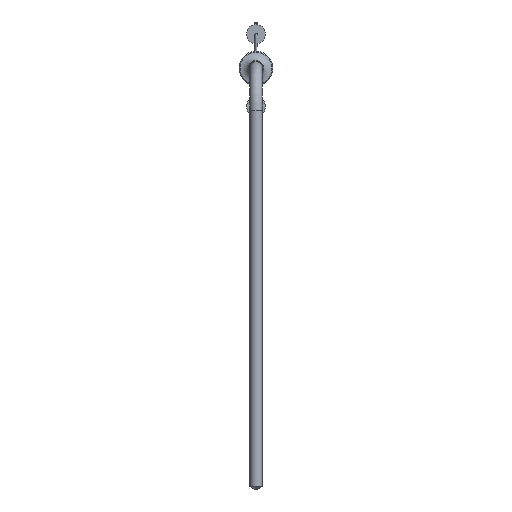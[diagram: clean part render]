
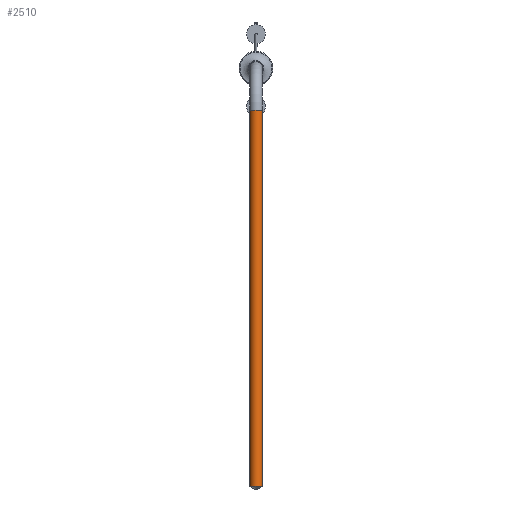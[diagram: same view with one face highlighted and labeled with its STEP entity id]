
A CAD part, top view. The second image highlights one B-rep face of the part: STEP entity #2510.
In plain terms, the highlighted cylindrical face has radius 1.5 mm (diameter 3 mm), a full revolution.
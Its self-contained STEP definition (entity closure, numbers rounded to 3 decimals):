
#20 = FACE_OUTER_BOUND ( 'NONE', #1504, .T. ) ;
#261 = CARTESIAN_POINT ( 'NONE',  ( 0., -10., 25. ) ) ;
#488 = DIRECTION ( 'NONE',  ( 0., 0., 1. ) ) ;
#530 = CIRCLE ( 'NONE', #2089, 1.5 ) ;
#699 = CARTESIAN_POINT ( 'NONE',  ( 0., -99.134, 25. ) ) ;
#755 = VERTEX_POINT ( 'NONE', #1187 ) ;
#908 = CYLINDRICAL_SURFACE ( 'NONE', #2176, 1.5 ) ;
#981 = ORIENTED_EDGE ( 'NONE', *, *, #2666, .T. ) ;
#1187 = CARTESIAN_POINT ( 'NONE',  ( 0., -99.134, 26.5 ) ) ;
#1198 = VERTEX_POINT ( 'NONE', #2516 ) ;
#1297 = DIRECTION ( 'NONE',  ( -1., 0., 0. ) ) ;
#1339 = DIRECTION ( 'NONE',  ( 0., 0., 1. ) ) ;
#1504 = EDGE_LOOP ( 'NONE', ( #2389 ) ) ;
#1547 = DIRECTION ( 'NONE',  ( 0., -1., 0. ) ) ;
#1584 = DIRECTION ( 'NONE',  ( 0., 1., 0. ) ) ;
#1864 = CIRCLE ( 'NONE', #2313, 1.5 ) ;
#1913 = EDGE_CURVE ( 'NONE', #1198, #1198, #1864, .T. ) ;
#1937 = CARTESIAN_POINT ( 'NONE',  ( 0., -10., 25. ) ) ;
#2010 = FACE_OUTER_BOUND ( 'NONE', #2417, .T. ) ;
#2089 = AXIS2_PLACEMENT_3D ( 'NONE', #699, #1584, #488 ) ;
#2176 = AXIS2_PLACEMENT_3D ( 'NONE', #261, #1547, #1339 ) ;
#2313 = AXIS2_PLACEMENT_3D ( 'NONE', #1937, #2802, #1297 ) ;
#2389 = ORIENTED_EDGE ( 'NONE', *, *, #1913, .T. ) ;
#2417 = EDGE_LOOP ( 'NONE', ( #981 ) ) ;
#2510 = ADVANCED_FACE ( 'NONE', ( #2010, #20 ), #908, .T. ) ;
#2516 = CARTESIAN_POINT ( 'NONE',  ( -1.5, -10., 25. ) ) ;
#2666 = EDGE_CURVE ( 'NONE', #755, #755, #530, .T. ) ;
#2802 = DIRECTION ( 'NONE',  ( 0., -1., 0. ) ) ;
